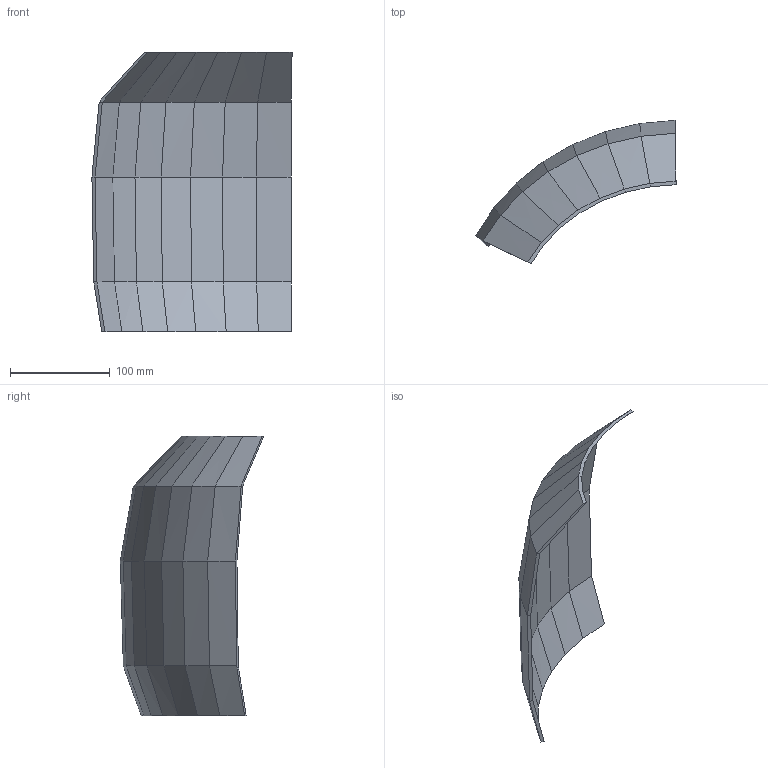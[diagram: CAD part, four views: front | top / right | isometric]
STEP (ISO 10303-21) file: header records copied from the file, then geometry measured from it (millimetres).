
FILE_DESCRIPTION(('Open CASCADE Model'),'2;1');
FILE_NAME('Open CASCADE Shape Model','2026-09-19T23:46:39',('Author'),( 'Open CASCADE'),'Open CASCADE STEP processor 7.9','Open CASCADE 7.9' ,'Unknown');
FILE_SCHEMA(('AUTOMOTIVE_DESIGN { 1 0 10303 214 1 1 1 1 }'));
Length unit declared in the file: millimetre
Products named in the file (1): Open CASCADE STEP translator 7.9 20
Bounding box: 200.26 x 143.38 x 280 mm (x, y, z)
Volume: 223237.8 mm3; surface area: 140807.6 mm2
Topology: 1 solids, 1 shells, 66 faces, 144 edges, 80 vertices
Faces by surface type: bspline 64, plane 2
Entity records: 3466 total; most frequent: CARTESIAN_POINT 891, DIRECTION 318, LINE 312, VECTOR 312, ORIENTED_EDGE 288, PCURVE 288, DEFINITIONAL_REPRESENTATION 288, EDGE_CURVE 144
